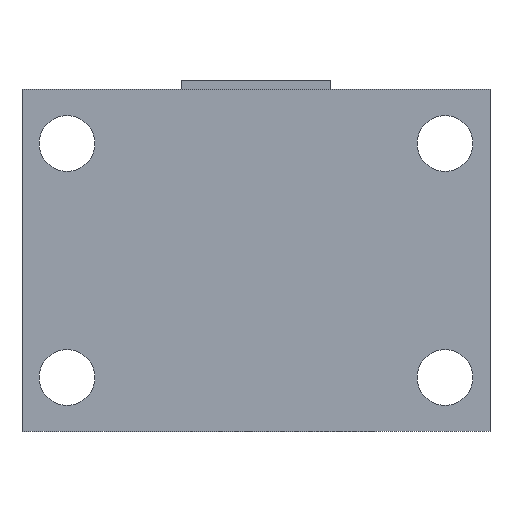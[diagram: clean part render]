
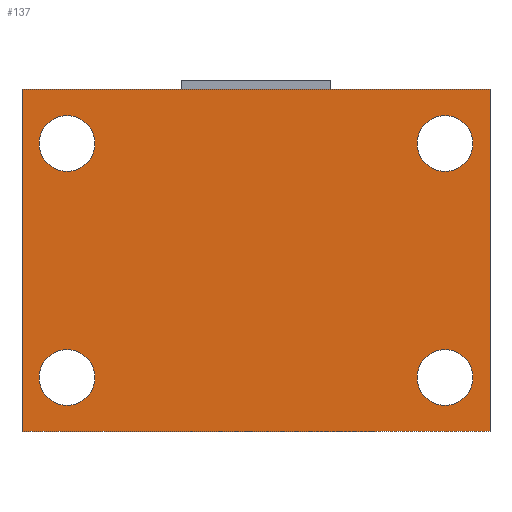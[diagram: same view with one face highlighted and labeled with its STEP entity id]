
A CAD part, front view. The second image highlights one B-rep face of the part: STEP entity #137.
In plain terms, the highlighted planar face has unit normal (0, -1, 0).
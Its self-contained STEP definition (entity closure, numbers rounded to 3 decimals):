
#21 = EDGE_CURVE('',#22,#24,#26,.T.);
#22 = VERTEX_POINT('',#23);
#23 = CARTESIAN_POINT('',(-13.,0.,-9.5));
#24 = VERTEX_POINT('',#25);
#25 = CARTESIAN_POINT('',(-13.,0.,9.5));
#26 = SURFACE_CURVE('',#27,(#31,#43),.PCURVE_S1.);
#27 = LINE('',#28,#29);
#28 = CARTESIAN_POINT('',(-13.,0.,-9.5));
#29 = VECTOR('',#30,1.);
#30 = DIRECTION('',(0.,0.,1.));
#31 = PCURVE('',#32,#37);
#32 = PLANE('',#33);
#33 = AXIS2_PLACEMENT_3D('',#34,#35,#36);
#34 = CARTESIAN_POINT('',(-13.,0.,-9.5));
#35 = DIRECTION('',(1.,0.,-0.));
#36 = DIRECTION('',(0.,0.,1.));
#37 = DEFINITIONAL_REPRESENTATION('',(#38),#42);
#38 = LINE('',#39,#40);
#39 = CARTESIAN_POINT('',(0.,0.));
#40 = VECTOR('',#41,1.);
#41 = DIRECTION('',(1.,0.));
#42 = ( GEOMETRIC_REPRESENTATION_CONTEXT(2) 
PARAMETRIC_REPRESENTATION_CONTEXT() REPRESENTATION_CONTEXT('2D SPACE',''
  ) );
#43 = PCURVE('',#44,#49);
#44 = PLANE('',#45);
#45 = AXIS2_PLACEMENT_3D('',#46,#47,#48);
#46 = CARTESIAN_POINT('',(-13.,0.,-9.5));
#47 = DIRECTION('',(-0.,1.,0.));
#48 = DIRECTION('',(0.,0.,1.));
#49 = DEFINITIONAL_REPRESENTATION('',(#50),#54);
#50 = LINE('',#51,#52);
#51 = CARTESIAN_POINT('',(0.,0.));
#52 = VECTOR('',#53,1.);
#53 = DIRECTION('',(1.,0.));
#54 = ( GEOMETRIC_REPRESENTATION_CONTEXT(2) 
PARAMETRIC_REPRESENTATION_CONTEXT() REPRESENTATION_CONTEXT('2D SPACE',''
  ) );
#72 = PLANE('',#73);
#73 = AXIS2_PLACEMENT_3D('',#74,#75,#76);
#74 = CARTESIAN_POINT('',(-13.,0.,-9.5));
#75 = DIRECTION('',(0.,0.,1.));
#76 = DIRECTION('',(1.,0.,-0.));
#126 = PLANE('',#127);
#127 = AXIS2_PLACEMENT_3D('',#128,#129,#130);
#128 = CARTESIAN_POINT('',(-13.,0.,9.5));
#129 = DIRECTION('',(0.,0.,1.));
#130 = DIRECTION('',(1.,0.,-0.));
#137 = ADVANCED_FACE('',(#138,#213,#244,#275,#306),#44,.F.);
#138 = FACE_BOUND('',#139,.F.);
#139 = EDGE_LOOP('',(#140,#163,#164,#187));
#140 = ORIENTED_EDGE('',*,*,#141,.F.);
#141 = EDGE_CURVE('',#22,#142,#144,.T.);
#142 = VERTEX_POINT('',#143);
#143 = CARTESIAN_POINT('',(13.,0.,-9.5));
#144 = SURFACE_CURVE('',#145,(#149,#156),.PCURVE_S1.);
#145 = LINE('',#146,#147);
#146 = CARTESIAN_POINT('',(-13.,0.,-9.5));
#147 = VECTOR('',#148,1.);
#148 = DIRECTION('',(1.,0.,-0.));
#149 = PCURVE('',#44,#150);
#150 = DEFINITIONAL_REPRESENTATION('',(#151),#155);
#151 = LINE('',#152,#153);
#152 = CARTESIAN_POINT('',(0.,0.));
#153 = VECTOR('',#154,1.);
#154 = DIRECTION('',(0.,1.));
#155 = ( GEOMETRIC_REPRESENTATION_CONTEXT(2) 
PARAMETRIC_REPRESENTATION_CONTEXT() REPRESENTATION_CONTEXT('2D SPACE',''
  ) );
#156 = PCURVE('',#72,#157);
#157 = DEFINITIONAL_REPRESENTATION('',(#158),#162);
#158 = LINE('',#159,#160);
#159 = CARTESIAN_POINT('',(0.,0.));
#160 = VECTOR('',#161,1.);
#161 = DIRECTION('',(1.,0.));
#162 = ( GEOMETRIC_REPRESENTATION_CONTEXT(2) 
PARAMETRIC_REPRESENTATION_CONTEXT() REPRESENTATION_CONTEXT('2D SPACE',''
  ) );
#163 = ORIENTED_EDGE('',*,*,#21,.T.);
#164 = ORIENTED_EDGE('',*,*,#165,.T.);
#165 = EDGE_CURVE('',#24,#166,#168,.T.);
#166 = VERTEX_POINT('',#167);
#167 = CARTESIAN_POINT('',(13.,0.,9.5));
#168 = SURFACE_CURVE('',#169,(#173,#180),.PCURVE_S1.);
#169 = LINE('',#170,#171);
#170 = CARTESIAN_POINT('',(-13.,0.,9.5));
#171 = VECTOR('',#172,1.);
#172 = DIRECTION('',(1.,0.,-0.));
#173 = PCURVE('',#44,#174);
#174 = DEFINITIONAL_REPRESENTATION('',(#175),#179);
#175 = LINE('',#176,#177);
#176 = CARTESIAN_POINT('',(19.,0.));
#177 = VECTOR('',#178,1.);
#178 = DIRECTION('',(0.,1.));
#179 = ( GEOMETRIC_REPRESENTATION_CONTEXT(2) 
PARAMETRIC_REPRESENTATION_CONTEXT() REPRESENTATION_CONTEXT('2D SPACE',''
  ) );
#180 = PCURVE('',#126,#181);
#181 = DEFINITIONAL_REPRESENTATION('',(#182),#186);
#182 = LINE('',#183,#184);
#183 = CARTESIAN_POINT('',(0.,0.));
#184 = VECTOR('',#185,1.);
#185 = DIRECTION('',(1.,0.));
#186 = ( GEOMETRIC_REPRESENTATION_CONTEXT(2) 
PARAMETRIC_REPRESENTATION_CONTEXT() REPRESENTATION_CONTEXT('2D SPACE',''
  ) );
#187 = ORIENTED_EDGE('',*,*,#188,.F.);
#188 = EDGE_CURVE('',#142,#166,#189,.T.);
#189 = SURFACE_CURVE('',#190,(#194,#201),.PCURVE_S1.);
#190 = LINE('',#191,#192);
#191 = CARTESIAN_POINT('',(13.,0.,-9.5));
#192 = VECTOR('',#193,1.);
#193 = DIRECTION('',(0.,0.,1.));
#194 = PCURVE('',#44,#195);
#195 = DEFINITIONAL_REPRESENTATION('',(#196),#200);
#196 = LINE('',#197,#198);
#197 = CARTESIAN_POINT('',(0.,26.));
#198 = VECTOR('',#199,1.);
#199 = DIRECTION('',(1.,0.));
#200 = ( GEOMETRIC_REPRESENTATION_CONTEXT(2) 
PARAMETRIC_REPRESENTATION_CONTEXT() REPRESENTATION_CONTEXT('2D SPACE',''
  ) );
#201 = PCURVE('',#202,#207);
#202 = PLANE('',#203);
#203 = AXIS2_PLACEMENT_3D('',#204,#205,#206);
#204 = CARTESIAN_POINT('',(13.,0.,-9.5));
#205 = DIRECTION('',(1.,0.,-0.));
#206 = DIRECTION('',(0.,0.,1.));
#207 = DEFINITIONAL_REPRESENTATION('',(#208),#212);
#208 = LINE('',#209,#210);
#209 = CARTESIAN_POINT('',(0.,0.));
#210 = VECTOR('',#211,1.);
#211 = DIRECTION('',(1.,0.));
#212 = ( GEOMETRIC_REPRESENTATION_CONTEXT(2) 
PARAMETRIC_REPRESENTATION_CONTEXT() REPRESENTATION_CONTEXT('2D SPACE',''
  ) );
#213 = FACE_BOUND('',#214,.F.);
#214 = EDGE_LOOP('',(#215));
#215 = ORIENTED_EDGE('',*,*,#216,.F.);
#216 = EDGE_CURVE('',#217,#217,#219,.T.);
#217 = VERTEX_POINT('',#218);
#218 = CARTESIAN_POINT('',(-10.5,0.,-4.95));
#219 = SURFACE_CURVE('',#220,(#225,#232),.PCURVE_S1.);
#220 = CIRCLE('',#221,1.55);
#221 = AXIS2_PLACEMENT_3D('',#222,#223,#224);
#222 = CARTESIAN_POINT('',(-10.5,0.,-6.5));
#223 = DIRECTION('',(0.,1.,0.));
#224 = DIRECTION('',(0.,-0.,1.));
#225 = PCURVE('',#44,#226);
#226 = DEFINITIONAL_REPRESENTATION('',(#227),#231);
#227 = CIRCLE('',#228,1.55);
#228 = AXIS2_PLACEMENT_2D('',#229,#230);
#229 = CARTESIAN_POINT('',(3.,2.5));
#230 = DIRECTION('',(1.,0.));
#231 = ( GEOMETRIC_REPRESENTATION_CONTEXT(2) 
PARAMETRIC_REPRESENTATION_CONTEXT() REPRESENTATION_CONTEXT('2D SPACE',''
  ) );
#232 = PCURVE('',#233,#238);
#233 = CYLINDRICAL_SURFACE('',#234,1.55);
#234 = AXIS2_PLACEMENT_3D('',#235,#236,#237);
#235 = CARTESIAN_POINT('',(-10.5,-0.05,-6.5));
#236 = DIRECTION('',(0.,1.,0.));
#237 = DIRECTION('',(0.,-0.,1.));
#238 = DEFINITIONAL_REPRESENTATION('',(#239),#243);
#239 = LINE('',#240,#241);
#240 = CARTESIAN_POINT('',(0.,0.05));
#241 = VECTOR('',#242,1.);
#242 = DIRECTION('',(1.,0.));
#243 = ( GEOMETRIC_REPRESENTATION_CONTEXT(2) 
PARAMETRIC_REPRESENTATION_CONTEXT() REPRESENTATION_CONTEXT('2D SPACE',''
  ) );
#244 = FACE_BOUND('',#245,.F.);
#245 = EDGE_LOOP('',(#246));
#246 = ORIENTED_EDGE('',*,*,#247,.F.);
#247 = EDGE_CURVE('',#248,#248,#250,.T.);
#248 = VERTEX_POINT('',#249);
#249 = CARTESIAN_POINT('',(-10.5,0.,8.05));
#250 = SURFACE_CURVE('',#251,(#256,#263),.PCURVE_S1.);
#251 = CIRCLE('',#252,1.55);
#252 = AXIS2_PLACEMENT_3D('',#253,#254,#255);
#253 = CARTESIAN_POINT('',(-10.5,0.,6.5));
#254 = DIRECTION('',(0.,1.,0.));
#255 = DIRECTION('',(0.,-0.,1.));
#256 = PCURVE('',#44,#257);
#257 = DEFINITIONAL_REPRESENTATION('',(#258),#262);
#258 = CIRCLE('',#259,1.55);
#259 = AXIS2_PLACEMENT_2D('',#260,#261);
#260 = CARTESIAN_POINT('',(16.,2.5));
#261 = DIRECTION('',(1.,0.));
#262 = ( GEOMETRIC_REPRESENTATION_CONTEXT(2) 
PARAMETRIC_REPRESENTATION_CONTEXT() REPRESENTATION_CONTEXT('2D SPACE',''
  ) );
#263 = PCURVE('',#264,#269);
#264 = CYLINDRICAL_SURFACE('',#265,1.55);
#265 = AXIS2_PLACEMENT_3D('',#266,#267,#268);
#266 = CARTESIAN_POINT('',(-10.5,-0.05,6.5));
#267 = DIRECTION('',(0.,1.,0.));
#268 = DIRECTION('',(0.,-0.,1.));
#269 = DEFINITIONAL_REPRESENTATION('',(#270),#274);
#270 = LINE('',#271,#272);
#271 = CARTESIAN_POINT('',(0.,0.05));
#272 = VECTOR('',#273,1.);
#273 = DIRECTION('',(1.,0.));
#274 = ( GEOMETRIC_REPRESENTATION_CONTEXT(2) 
PARAMETRIC_REPRESENTATION_CONTEXT() REPRESENTATION_CONTEXT('2D SPACE',''
  ) );
#275 = FACE_BOUND('',#276,.F.);
#276 = EDGE_LOOP('',(#277));
#277 = ORIENTED_EDGE('',*,*,#278,.F.);
#278 = EDGE_CURVE('',#279,#279,#281,.T.);
#279 = VERTEX_POINT('',#280);
#280 = CARTESIAN_POINT('',(10.5,0.,-4.95));
#281 = SURFACE_CURVE('',#282,(#287,#294),.PCURVE_S1.);
#282 = CIRCLE('',#283,1.55);
#283 = AXIS2_PLACEMENT_3D('',#284,#285,#286);
#284 = CARTESIAN_POINT('',(10.5,0.,-6.5));
#285 = DIRECTION('',(0.,1.,0.));
#286 = DIRECTION('',(0.,-0.,1.));
#287 = PCURVE('',#44,#288);
#288 = DEFINITIONAL_REPRESENTATION('',(#289),#293);
#289 = CIRCLE('',#290,1.55);
#290 = AXIS2_PLACEMENT_2D('',#291,#292);
#291 = CARTESIAN_POINT('',(3.,23.5));
#292 = DIRECTION('',(1.,0.));
#293 = ( GEOMETRIC_REPRESENTATION_CONTEXT(2) 
PARAMETRIC_REPRESENTATION_CONTEXT() REPRESENTATION_CONTEXT('2D SPACE',''
  ) );
#294 = PCURVE('',#295,#300);
#295 = CYLINDRICAL_SURFACE('',#296,1.55);
#296 = AXIS2_PLACEMENT_3D('',#297,#298,#299);
#297 = CARTESIAN_POINT('',(10.5,-0.05,-6.5));
#298 = DIRECTION('',(0.,1.,0.));
#299 = DIRECTION('',(0.,-0.,1.));
#300 = DEFINITIONAL_REPRESENTATION('',(#301),#305);
#301 = LINE('',#302,#303);
#302 = CARTESIAN_POINT('',(0.,0.05));
#303 = VECTOR('',#304,1.);
#304 = DIRECTION('',(1.,0.));
#305 = ( GEOMETRIC_REPRESENTATION_CONTEXT(2) 
PARAMETRIC_REPRESENTATION_CONTEXT() REPRESENTATION_CONTEXT('2D SPACE',''
  ) );
#306 = FACE_BOUND('',#307,.F.);
#307 = EDGE_LOOP('',(#308));
#308 = ORIENTED_EDGE('',*,*,#309,.F.);
#309 = EDGE_CURVE('',#310,#310,#312,.T.);
#310 = VERTEX_POINT('',#311);
#311 = CARTESIAN_POINT('',(10.5,0.,8.05));
#312 = SURFACE_CURVE('',#313,(#318,#325),.PCURVE_S1.);
#313 = CIRCLE('',#314,1.55);
#314 = AXIS2_PLACEMENT_3D('',#315,#316,#317);
#315 = CARTESIAN_POINT('',(10.5,0.,6.5));
#316 = DIRECTION('',(0.,1.,0.));
#317 = DIRECTION('',(0.,-0.,1.));
#318 = PCURVE('',#44,#319);
#319 = DEFINITIONAL_REPRESENTATION('',(#320),#324);
#320 = CIRCLE('',#321,1.55);
#321 = AXIS2_PLACEMENT_2D('',#322,#323);
#322 = CARTESIAN_POINT('',(16.,23.5));
#323 = DIRECTION('',(1.,0.));
#324 = ( GEOMETRIC_REPRESENTATION_CONTEXT(2) 
PARAMETRIC_REPRESENTATION_CONTEXT() REPRESENTATION_CONTEXT('2D SPACE',''
  ) );
#325 = PCURVE('',#326,#331);
#326 = CYLINDRICAL_SURFACE('',#327,1.55);
#327 = AXIS2_PLACEMENT_3D('',#328,#329,#330);
#328 = CARTESIAN_POINT('',(10.5,-0.05,6.5));
#329 = DIRECTION('',(0.,1.,0.));
#330 = DIRECTION('',(0.,-0.,1.));
#331 = DEFINITIONAL_REPRESENTATION('',(#332),#336);
#332 = LINE('',#333,#334);
#333 = CARTESIAN_POINT('',(0.,0.05));
#334 = VECTOR('',#335,1.);
#335 = DIRECTION('',(1.,0.));
#336 = ( GEOMETRIC_REPRESENTATION_CONTEXT(2) 
PARAMETRIC_REPRESENTATION_CONTEXT() REPRESENTATION_CONTEXT('2D SPACE',''
  ) );
